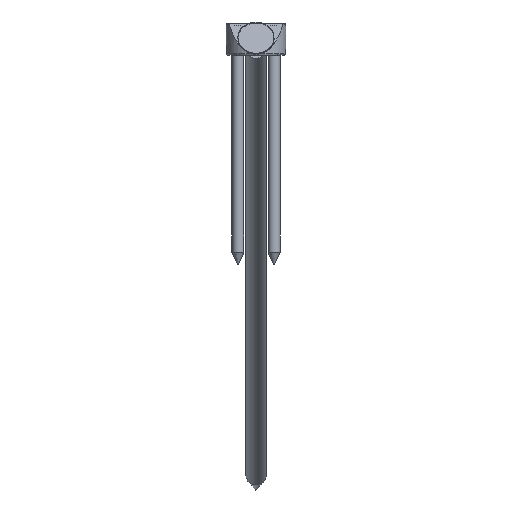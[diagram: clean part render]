
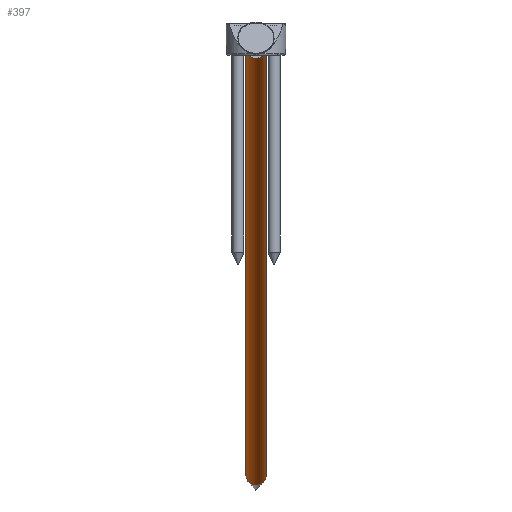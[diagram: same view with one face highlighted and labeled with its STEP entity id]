
A CAD part, front view. The second image highlights one B-rep face of the part: STEP entity #397.
In plain terms, the highlighted cylindrical face has radius 5 mm (diameter 10 mm), a full revolution.
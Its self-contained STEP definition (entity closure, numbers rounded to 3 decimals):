
#59=CYLINDRICAL_SURFACE('',#490,5.);
#151=ORIENTED_EDGE('',*,*,#195,.T.);
#152=ORIENTED_EDGE('',*,*,#194,.F.);
#194=EDGE_CURVE('',#228,#228,#257,.T.);
#195=EDGE_CURVE('',#229,#229,#258,.T.);
#228=VERTEX_POINT('',#766);
#229=VERTEX_POINT('',#769);
#257=CIRCLE('',#489,5.);
#258=CIRCLE('',#491,5.);
#306=EDGE_LOOP('',(#151));
#307=EDGE_LOOP('',(#152));
#357=FACE_BOUND('',#306,.T.);
#358=FACE_BOUND('',#307,.T.);
#397=ADVANCED_FACE('',(#357,#358),#59,.T.);
#489=AXIS2_PLACEMENT_3D('',#765,#616,#617);
#490=AXIS2_PLACEMENT_3D('',#767,#618,#619);
#491=AXIS2_PLACEMENT_3D('',#768,#620,#621);
#616=DIRECTION('',(0.,1.,0.));
#617=DIRECTION('',(0.,0.,1.));
#618=DIRECTION('',(0.,1.,0.));
#619=DIRECTION('',(0.,0.,1.));
#620=DIRECTION('',(0.,1.,0.));
#621=DIRECTION('',(0.,0.,1.));
#765=CARTESIAN_POINT('',(0.,42.,0.));
#766=CARTESIAN_POINT('',(0.,42.,5.));
#767=CARTESIAN_POINT('',(0.,54.,0.));
#768=CARTESIAN_POINT('',(0.,-383.,0.));
#769=CARTESIAN_POINT('',(0.,-383.,5.));
